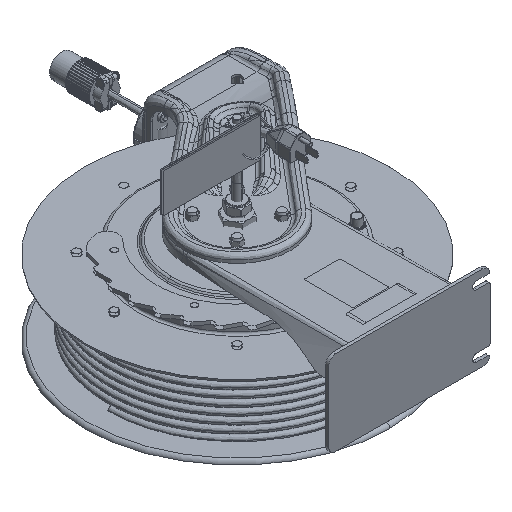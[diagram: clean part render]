
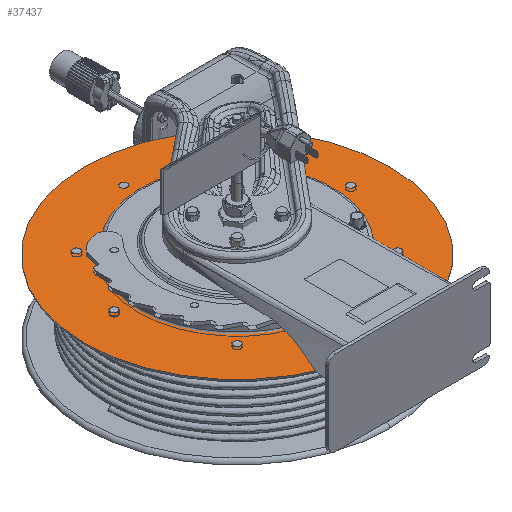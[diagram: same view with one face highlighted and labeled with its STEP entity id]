
A CAD part, isometric view. The second image highlights one B-rep face of the part: STEP entity #37437.
In plain terms, the highlighted planar face has unit normal (0, 0, 1).
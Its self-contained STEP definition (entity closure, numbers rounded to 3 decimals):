
#37242=CARTESIAN_POINT('',(0.,9.449,-1.675));
#37243=DIRECTION('',(0.,0.,1.));
#37244=DIRECTION('',(-1.,0.,0.));
#37245=AXIS2_PLACEMENT_3D('',#37242,#37243,#37244);
#37247=CARTESIAN_POINT('',(0.,9.449,-1.675));
#37248=DIRECTION('',(0.,0.,-1.));
#37249=DIRECTION('',(-1.,0.,0.));
#37250=AXIS2_PLACEMENT_3D('',#37247,#37248,#37249);
#37370=CARTESIAN_POINT('',(-8.524,9.449,
-1.675));
#37372=VERTEX_POINT('',#37370);
#37374=CARTESIAN_POINT('',(8.524,9.449,
-1.675));
#37376=VERTEX_POINT('',#37374);
#37426=CARTESIAN_POINT('',(0.,9.449,-1.675));
#37427=DIRECTION('',(0.,0.,-1.));
#37428=DIRECTION('',(1.,0.,0.));
#37429=AXIS2_PLACEMENT_3D('',#37426,#37427,#37428);
#37430=PLANE('',#37429);
#37432=ORIENTED_EDGE('',*,*,#37431,.F.);
#37434=ORIENTED_EDGE('',*,*,#37433,.T.);
#37435=EDGE_LOOP('',(#37432,#37434));
#37436=FACE_OUTER_BOUND('',#37435,.F.);
#37437=ADVANCED_FACE('',(#37436),#37430,.F.);
#37246=CIRCLE('',#37245,8.524);
#37251=CIRCLE('',#37250,8.524);
#37431=EDGE_CURVE('',#37372,#37376,#37246,.T.);
#37433=EDGE_CURVE('',#37372,#37376,#37251,.T.);
